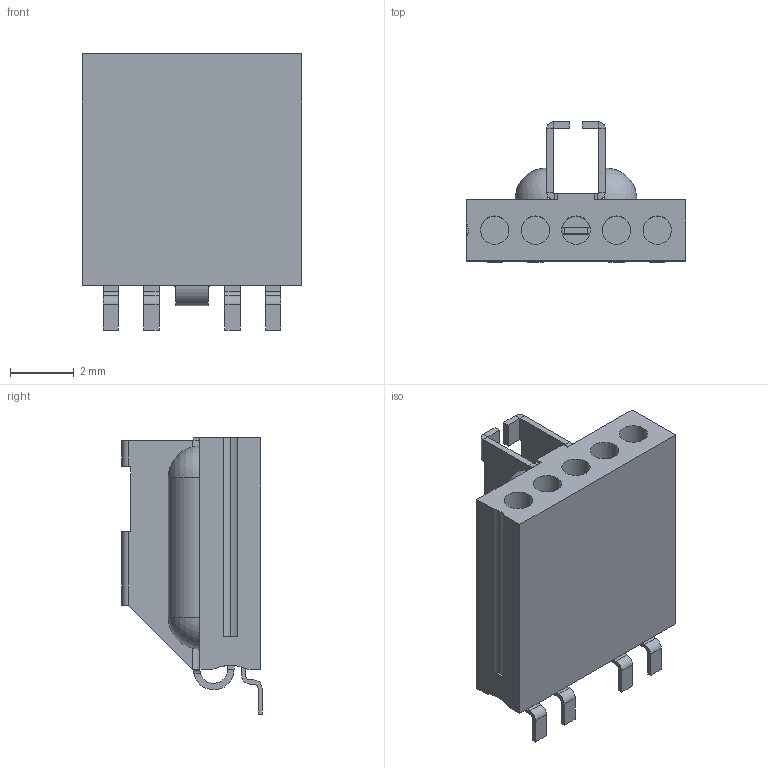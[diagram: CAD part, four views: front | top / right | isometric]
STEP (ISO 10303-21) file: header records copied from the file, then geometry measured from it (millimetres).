
FILE_DESCRIPTION (( 'STEP AP214' ), '1' );
FILE_NAME ('A24001-004.STEP', '2015-11-04T13:02:25', ( '' ), ( '' ), 'SwSTEP 2.0', 'SolidWorks 2015', '' );
FILE_SCHEMA (( 'AUTOMOTIVE_DESIGN' ));
Length unit declared in the file: inch
Products named in the file (1): A24001-004
Bounding box: 6.86 x 4.38 x 8.64 mm (x, y, z)
Volume: 92.3 mm3; surface area: 325 mm2
Topology: 1 solids, 1 shells, 196 faces, 521 edges, 324 vertices
Faces by surface type: plane 128, cylinder 60, sphere 4, bspline 4
Entity records: 6123 total; most frequent: CARTESIAN_POINT 1180, ORIENTED_EDGE 1034, DIRECTION 1019, EDGE_CURVE 517, LINE 345, VECTOR 345, AXIS2_PLACEMENT_3D 337, VERTEX_POINT 324
